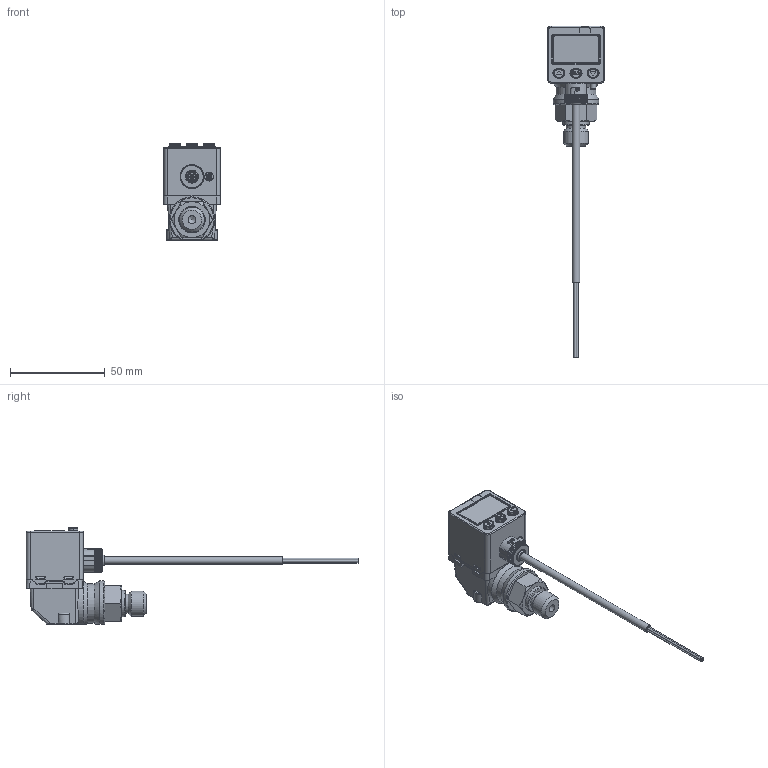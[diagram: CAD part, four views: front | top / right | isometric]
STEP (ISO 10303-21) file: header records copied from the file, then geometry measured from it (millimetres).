
FILE_DESCRIPTION(('STEP AP203'),'1');
FILE_NAME('-F3-L.stp','2025-06-20T06:55:38',(' '),(' '),'Spatial InterOp 3D',' ',' ');
FILE_SCHEMA(('CONFIG_CONTROL_DESIGN'));
Length unit declared in the file: millimetre
Products named in the file (4): P75※-※※-F3-L; KP50_SW0001; KP50_SW00010; KP50_SW00011
Assembly tree (3 placements, depth 2):
  P75※-※※-F3-L
    KP50_SW0001
    KP50_SW00010
    KP50_SW00011
Bounding box: 30.31 x 175.46 x 51.2 mm (x, y, z)
Volume: 1017.6 mm3; surface area: 28180.2 mm2
Topology: 2 solids, 1624 shells, 1844 faces, 9344 edges, 9048 vertices
Faces by surface type: plane 831, cylinder 486, bspline 253, cone 178, torus 58, sphere 32, extrusion 6
Full cylindrical faces by diameter (mm): 1 x2, 1.5 x4, 1.85 x2, 4 x1, 4.2 x2, 4.6 x2, 6.2 x1, 7.2 x1, 8.8 x1, 10.157 x1, 12 x1, 12.8 x1, 13.157 x1, 13.6 x1, 14 x1, 15.85 x1, 16.8 x1, 16.9 x2, 17 x1, 21 x1
Entity records: 120503 total; most frequent: CARTESIAN_POINT 56524, DIRECTION 11072, ORIENTED_EDGE 9804, EDGE_CURVE 9220, VERTEX_POINT 9004, VECTOR 4682, LINE 4676, AXIS2_PLACEMENT_3D 3195
